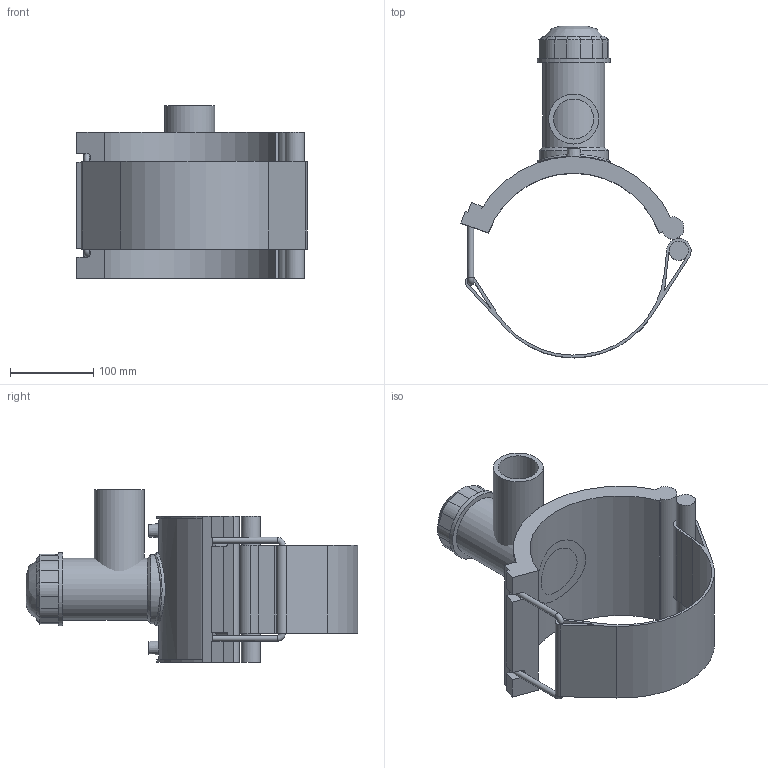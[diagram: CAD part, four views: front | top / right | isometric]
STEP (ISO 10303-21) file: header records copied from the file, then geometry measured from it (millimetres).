
FILE_DESCRIPTION(/* description */ ('PLASSON TAPPING SADDLE 8''''IPS x 2''''IPS'),/* implementation_level */ '2;1');
FILE_NAME(/* name */ 'C:\Dropbox\KIMPROJECTS-Inventor 2019\99-16-3568-Processing Inch\ASTM ElectroFusion 2021\5963BBP_5963BUP\5963BBP3080020.ipt.stp',/* time_stamp */ '2021-08-30T09:57:35+03:00',/* author */ ('KIM'),/* organization */ (''),/* preprocessor_version */ 'ST-DEVELOPER v17.2',/* originating_system */ 'Autodesk Inventor 2019',/* authorisation */ '');
FILE_SCHEMA (('AUTOMOTIVE_DESIGN { 1 0 10303 214 3 1 1 }'));
Length unit declared in the file: inch
Products named in the file (1): 5963BBP3080020
Bounding box: 276.84 x 399.02 x 207.9 mm (x, y, z)
Volume: 1895847 mm3; surface area: 386278.1 mm2
Topology: 3 solids, 3 shells, 124 faces, 315 edges, 205 vertices
Faces by surface type: plane 69, cylinder 40, cone 11, torus 2, bspline 2
Full cylindrical faces by diameter (mm): 4 x2, 6.998 x2, 10 x2, 23.048 x1, 48.08 x1, 60.1 x1, 61.236 x1, 74.358 x1, 83.106 x1, 87.48 x2
Entity records: 4260 total; most frequent: CARTESIAN_POINT 1120, DIRECTION 663, ORIENTED_EDGE 632, EDGE_CURVE 316, AXIS2_PLACEMENT_3D 241, VERTEX_POINT 205, LINE 181, VECTOR 181
